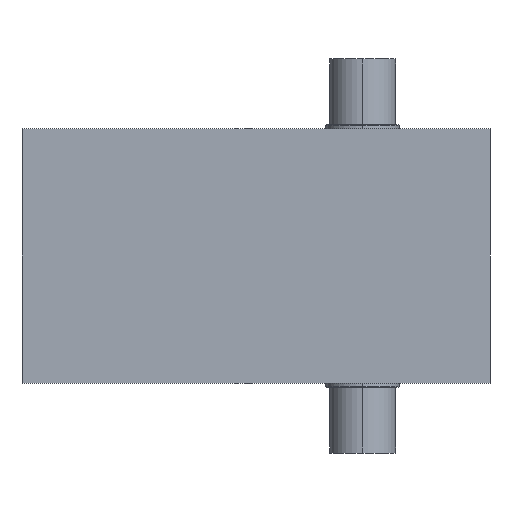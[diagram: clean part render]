
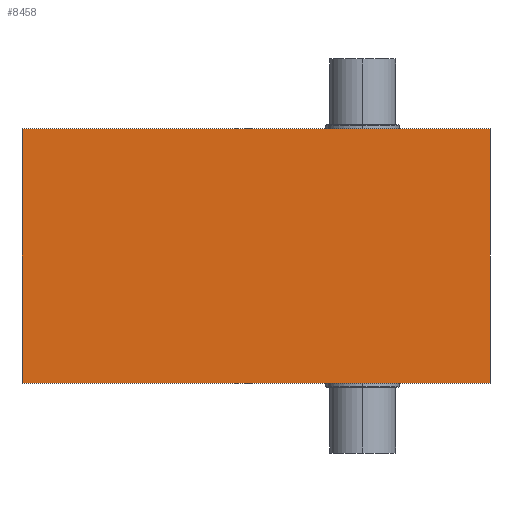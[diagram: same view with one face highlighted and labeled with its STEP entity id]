
A CAD part, left-side view. The second image highlights one B-rep face of the part: STEP entity #8458.
In plain terms, the highlighted planar face has unit normal (-1, 0, 0).
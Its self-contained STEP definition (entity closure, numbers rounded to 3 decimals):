
#326 = VECTOR ( 'NONE', #5522, 1000. ) ;
#828 = DIRECTION ( 'NONE',  ( 0., -1., 0. ) ) ;
#1028 = ORIENTED_EDGE ( 'NONE', *, *, #16302, .T. ) ;
#1328 = PLANE ( 'NONE',  #16626 ) ;
#2940 = LINE ( 'NONE', #6403, #19563 ) ;
#5031 = LINE ( 'NONE', #12481, #326 ) ;
#5522 = DIRECTION ( 'NONE',  ( 0., 0., -1. ) ) ;
#5840 = VERTEX_POINT ( 'NONE', #16591 ) ;
#6140 = CARTESIAN_POINT ( 'NONE',  ( -315., 415., -155. ) ) ;
#6403 = CARTESIAN_POINT ( 'NONE',  ( -315., 415., 155. ) ) ;
#6717 = DIRECTION ( 'NONE',  ( 0., 0., 1. ) ) ;
#7641 = EDGE_CURVE ( 'NONE', #15041, #22794, #5031, .T. ) ;
#8424 = VERTEX_POINT ( 'NONE', #8453 ) ;
#8453 = CARTESIAN_POINT ( 'NONE',  ( -315., -155., 155. ) ) ;
#8458 = ADVANCED_FACE ( 'NONE', ( #13612 ), #1328, .T. ) ;
#10058 = ORIENTED_EDGE ( 'NONE', *, *, #18538, .T. ) ;
#11173 = VECTOR ( 'NONE', #828, 1000. ) ;
#12481 = CARTESIAN_POINT ( 'NONE',  ( -315., 415., -155. ) ) ;
#13612 = FACE_OUTER_BOUND ( 'NONE', #22773, .T. ) ;
#14411 = EDGE_CURVE ( 'NONE', #8424, #15041, #2940, .T. ) ;
#15010 = DIRECTION ( 'NONE',  ( -1., 0., 0. ) ) ;
#15041 = VERTEX_POINT ( 'NONE', #22691 ) ;
#15062 = CARTESIAN_POINT ( 'NONE',  ( -315., -155., -155. ) ) ;
#15075 = CARTESIAN_POINT ( 'NONE',  ( -315., 415., -155. ) ) ;
#16201 = LINE ( 'NONE', #15062, #22640 ) ;
#16302 = EDGE_CURVE ( 'NONE', #22794, #5840, #18114, .T. ) ;
#16494 = ORIENTED_EDGE ( 'NONE', *, *, #7641, .T. ) ;
#16591 = CARTESIAN_POINT ( 'NONE',  ( -315., -155., -155. ) ) ;
#16626 = AXIS2_PLACEMENT_3D ( 'NONE', #17345, #15010, #6717 ) ;
#17345 = CARTESIAN_POINT ( 'NONE',  ( -315., 0., 0. ) ) ;
#17762 = ORIENTED_EDGE ( 'NONE', *, *, #14411, .T. ) ;
#18114 = LINE ( 'NONE', #15075, #11173 ) ;
#18538 = EDGE_CURVE ( 'NONE', #5840, #8424, #16201, .T. ) ;
#19563 = VECTOR ( 'NONE', #20916, 1000. ) ;
#20511 = DIRECTION ( 'NONE',  ( 0., 0., 1. ) ) ;
#20916 = DIRECTION ( 'NONE',  ( 0., 1., 0. ) ) ;
#22640 = VECTOR ( 'NONE', #20511, 1000. ) ;
#22691 = CARTESIAN_POINT ( 'NONE',  ( -315., 415., 155. ) ) ;
#22773 = EDGE_LOOP ( 'NONE', ( #1028, #10058, #17762, #16494 ) ) ;
#22794 = VERTEX_POINT ( 'NONE', #6140 ) ;
